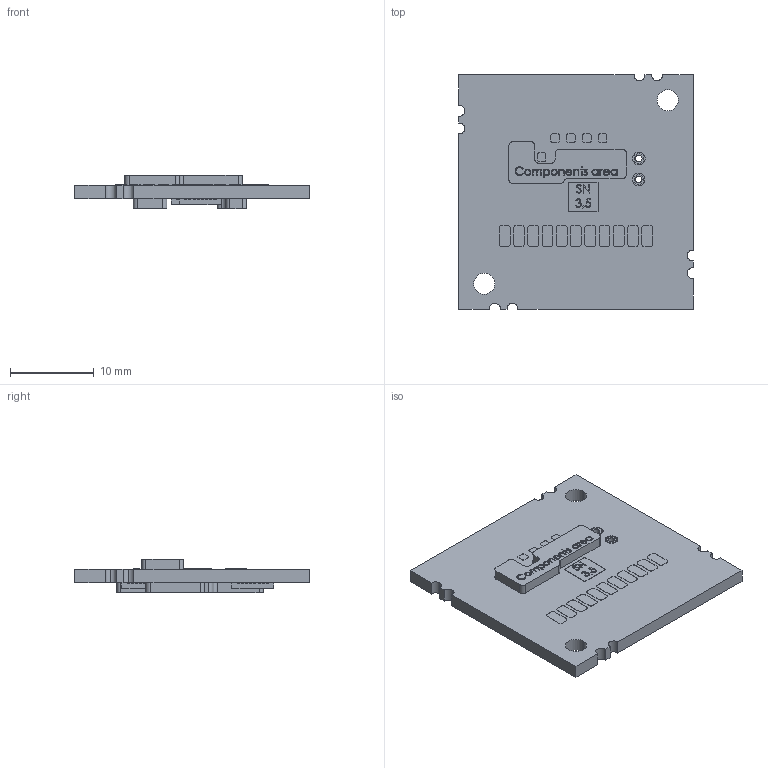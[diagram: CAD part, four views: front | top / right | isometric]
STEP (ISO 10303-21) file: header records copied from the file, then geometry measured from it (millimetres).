
FILE_DESCRIPTION (( 'STEP AP214' ), '1' );
FILE_NAME ('RTB28IC.STEP', '2025-11-20T12:00:10', ( '' ), ( '' ), 'SwSTEP 2.0', 'SolidWorks 2024', '' );
FILE_SCHEMA (( 'AUTOMOTIVE_DESIGN' ));
Length unit declared in the file: millimetre
Products named in the file (1): RTB28IC
Bounding box: 28 x 28 x 4 mm (x, y, z)
Volume: 1429.3 mm3; surface area: 1934.8 mm2
Topology: 3 solids, 17 shells, 1843 faces, 5139 edges, 3433 vertices
Faces by surface type: plane 1211, bspline 448, cylinder 184
Entity records: 85670 total; most frequent: CARTESIAN_POINT 35012, ORIENTED_EDGE 10278, DIRECTION 7157, EDGE_CURVE 5139, VECTOR 3649, LINE 3649, VERTEX_POINT 3433, EDGE_LOOP 1970
